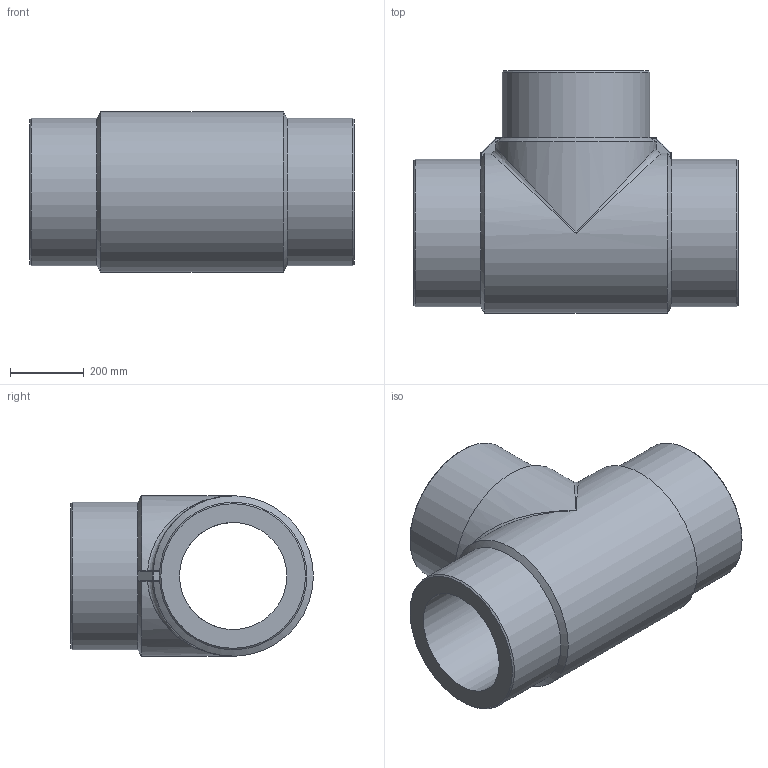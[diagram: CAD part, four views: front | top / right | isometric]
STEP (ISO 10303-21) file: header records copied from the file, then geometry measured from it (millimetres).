
FILE_DESCRIPTION(/* description */ ('Unknown'),/* implementation_level */ '2;1');
FILE_NAME(/* name */ 'TP400H',/* time_stamp */ '2022-06-06T16:45:56+02:00',/* author */ ('Unknown'),/* organization */ ('Unknown'),/* preprocessor_version */ 'ST-DEVELOPER v18.102',/* originating_system */ 'Solid Edge',/* authorisation */ 'Unknown');
FILE_SCHEMA (('AUTOMOTIVE_DESIGN {1 0 10303 214 3 1 1}'));
Length unit declared in the file: millimetre
Products named in the file (1): TP400H
Bounding box: 880 x 658 x 435 mm (x, y, z)
Volume: 76565654.8 mm3; surface area: 2609322.6 mm2
Topology: 1 solids, 1 shells, 64 faces, 159 edges, 84 vertices
Faces by surface type: cylinder 24, plane 21, sphere 8, cone 7, bspline 4
Full cylindrical faces by diameter (mm): 290.6 x2, 400 x3
Entity records: 1920 total; most frequent: CARTESIAN_POINT 533, DIRECTION 288, ORIENTED_EDGE 270, EDGE_CURVE 135, AXIS2_PLACEMENT_3D 120, VERTEX_POINT 81, EDGE_LOOP 76, FACE_BOUND 76
